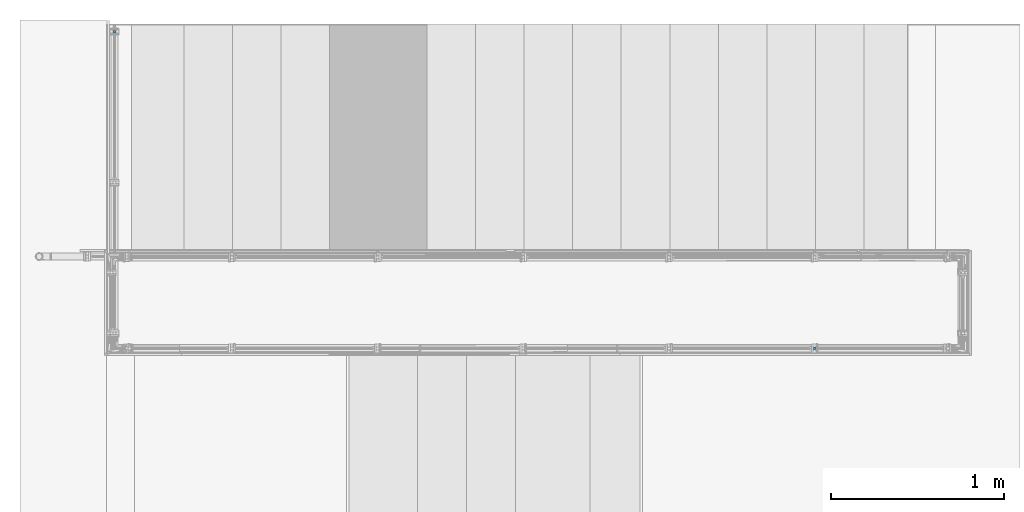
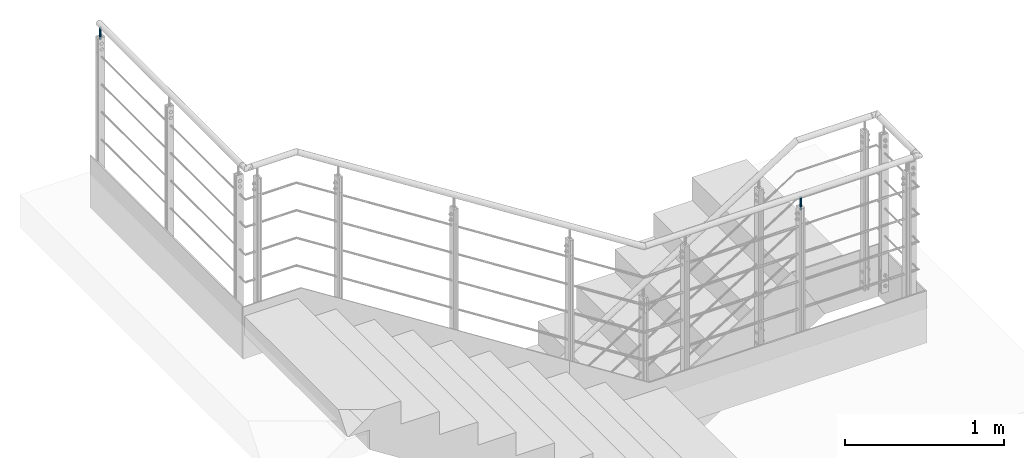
# One storey, part 10 of 98: 2 columns.
"""IFC2X3 building model written with IfcOpenShell, lengths in millimetres."""

from ifc_helpers import new_model, entity, si_unit, converted_unit, frame, origin, origin_with_axes, origin_2d, place, context, project, spatial, circle, extrude, material, element, save


model = new_model("IFC2X3")

# Units and contexts
model_context = context("Model", 3, precision=1e-09, world=origin_with_axes())
ifc_project = project(units=[si_unit("LENGTHUNIT", "METRE", prefix="MILLI"), si_unit("AREAUNIT", "SQUARE_METRE"), si_unit("VOLUMEUNIT", "CUBIC_METRE"), converted_unit("PLANEANGLEUNIT", "DEGREE", entity("IfcPlaneAngleMeasure", 0.01745329), si_unit("PLANEANGLEUNIT", "RADIAN"), dimensions=[0, 0, 0, 0, 0, 0, 0])], contexts=[model_context])

# Site, building, storey
site_placement = place(None, origin_with_axes())
site = spatial("IfcSite", under=ifc_project, at=site_placement, Name="Maybachstra?e 2, 71563 Affalterbach", CompositionType="ELEMENT")
building_placement = place(site_placement, origin_with_axes())
building = spatial("IfcBuilding", under=site, at=building_placement, Name="Struktur 1", CompositionType="ELEMENT")
storey_placement = place(building_placement, origin_with_axes())
storey = spatial("IfcBuildingStorey", under=building, at=storey_placement, Name="Default Storey", CompositionType="ELEMENT", Elevation=0.0)

# Columns
ifc_material = material(Name="1.4301")
for number, where, z_axis, x_axis in (
    (1, (11375.029157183, -570.0, 7140.1), (0.0, 0.0, 1.0), (-1.0, 0.0, 0.0)),
    (2, (7338.029157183, 1257.0, 8752.599999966), (0.0, 0.0, 1.0), (0.0, 1.0, 0.0)),
):
    element("IfcColumn", number, at=place(None, frame(where, z_axis=z_axis, x_axis=x_axis)), inside=storey, material=ifc_material, Name="-", ObjectType="-", context=model_context, shape_type="SweptSolid", body=[
        extrude(circle(Radius=8.0, at=origin_2d()), origin(), (0.0, 0.0, -1.0), 95.0),
    ])

save(model, "model.ifc")
